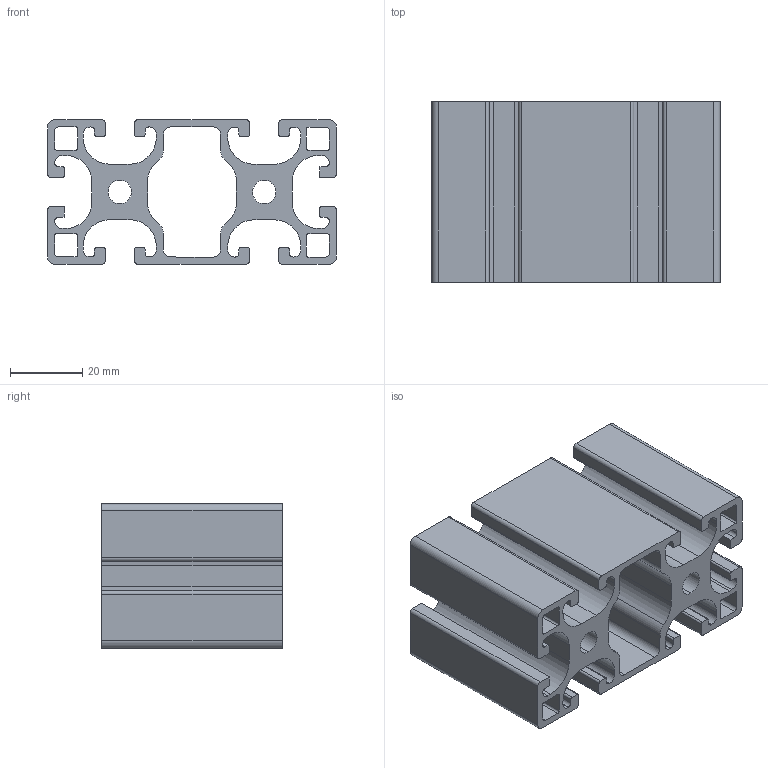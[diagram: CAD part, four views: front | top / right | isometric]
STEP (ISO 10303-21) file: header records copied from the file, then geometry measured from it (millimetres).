
FILE_DESCRIPTION (( 'STEP AP203' ), '1' );
FILE_NAME ('40X80.STEP', '2018-04-06T08:43:54', ( '' ), ( '' ), 'SwSTEP 2.0', 'SolidWorks 2014', '' );
FILE_SCHEMA (( 'CONFIG_CONTROL_DESIGN' ));
Length unit declared in the file: millimetre
Products named in the file (1): 40X80
Bounding box: 80 x 50 x 40.01 mm (x, y, z)
Volume: 57953.2 mm3; surface area: 41094.1 mm2
Topology: 1 solids, 1 shells, 207 faces, 615 edges, 410 vertices
Faces by surface type: cylinder 105, plane 102
Entity records: 7104 total; most frequent: DIRECTION 1241, CARTESIAN_POINT 1233, ORIENTED_EDGE 1230, EDGE_CURVE 615, AXIS2_PLACEMENT_3D 418, VERTEX_POINT 410, LINE 405, VECTOR 405
